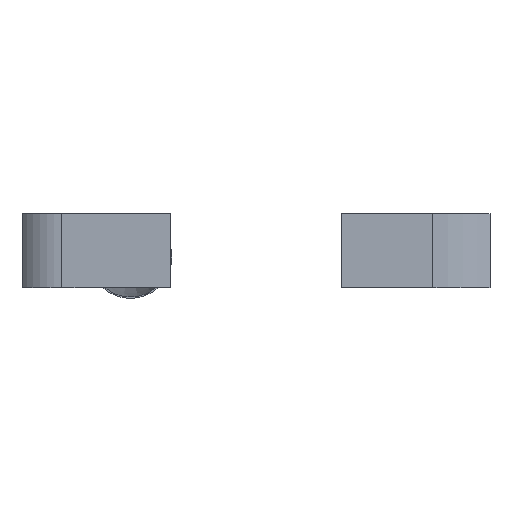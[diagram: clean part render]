
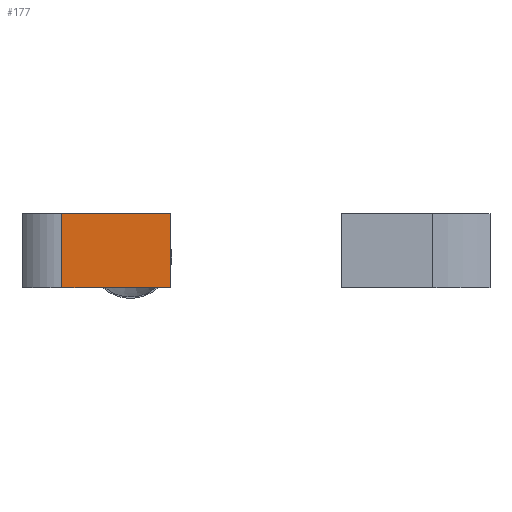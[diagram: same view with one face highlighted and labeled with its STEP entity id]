
A CAD part, front view. The second image highlights one B-rep face of the part: STEP entity #177.
In plain terms, the highlighted planar face has unit normal (0, -1, 0).
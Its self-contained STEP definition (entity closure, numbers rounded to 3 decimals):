
#177 = ADVANCED_FACE( '', ( #262 ), #263, .F. );
#262 = FACE_OUTER_BOUND( '', #443, .T. );
#263 = PLANE( '', #444 );
#443 = EDGE_LOOP( '', ( #663, #664, #665, #666 ) );
#444 = AXIS2_PLACEMENT_3D( '', #667, #668, #669 );
#663 = ORIENTED_EDGE( '', *, *, #1023, .T. );
#664 = ORIENTED_EDGE( '', *, *, #1042, .F. );
#665 = ORIENTED_EDGE( '', *, *, #1031, .F. );
#666 = ORIENTED_EDGE( '', *, *, #1043, .T. );
#667 = CARTESIAN_POINT( '', ( 6.5, 0., 19. ) );
#668 = DIRECTION( '', ( 0., 1., 0. ) );
#669 = DIRECTION( '', ( 0., 0., 1. ) );
#1023 = EDGE_CURVE( '', #1143, #1141, #1144, .T. );
#1031 = EDGE_CURVE( '', #1157, #1159, #1160, .T. );
#1042 = EDGE_CURVE( '', #1159, #1141, #1178, .T. );
#1043 = EDGE_CURVE( '', #1157, #1143, #1179, .T. );
#1141 = VERTEX_POINT( '', #1338 );
#1143 = VERTEX_POINT( '', #1341 );
#1144 = LINE( '', #1342, #1343 );
#1157 = VERTEX_POINT( '', #1358 );
#1159 = VERTEX_POINT( '', #1360 );
#1160 = LINE( '', #1361, #1362 );
#1178 = LINE( '', #1387, #1388 );
#1179 = LINE( '', #1389, #1390 );
#1338 = CARTESIAN_POINT( '', ( -6.5, 0., 0. ) );
#1341 = CARTESIAN_POINT( '', ( -6.5, 0., 19. ) );
#1342 = CARTESIAN_POINT( '', ( -6.5, 0., 19. ) );
#1343 = VECTOR( '', #1582, 1000. );
#1358 = CARTESIAN_POINT( '', ( 6.5, 0., 19. ) );
#1360 = CARTESIAN_POINT( '', ( 6.5, 0., 0. ) );
#1361 = CARTESIAN_POINT( '', ( 6.5, 0., 19. ) );
#1362 = VECTOR( '', #1600, 1000. );
#1387 = CARTESIAN_POINT( '', ( 6.5, 0., 0. ) );
#1388 = VECTOR( '', #1617, 1000. );
#1389 = CARTESIAN_POINT( '', ( 6.5, 0., 19. ) );
#1390 = VECTOR( '', #1618, 1000. );
#1582 = DIRECTION( '', ( 0., 0., -1. ) );
#1600 = DIRECTION( '', ( 0., 0., -1. ) );
#1617 = DIRECTION( '', ( -1., 0., 0. ) );
#1618 = DIRECTION( '', ( -1., 0., 0. ) );
